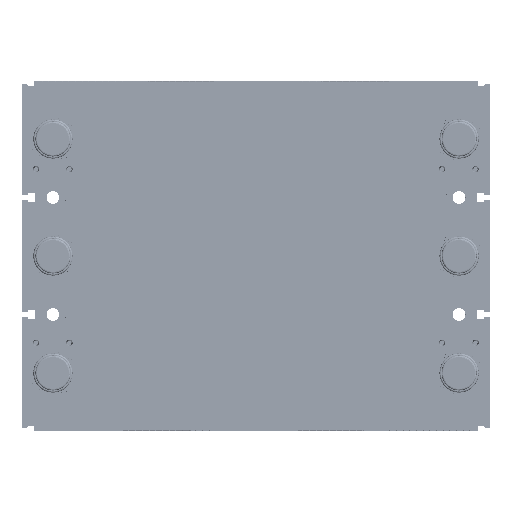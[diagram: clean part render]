
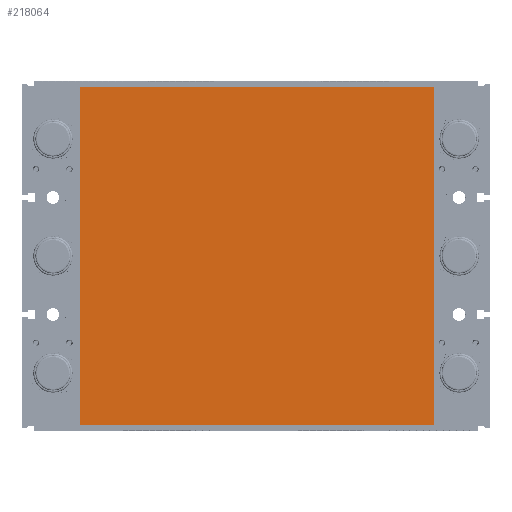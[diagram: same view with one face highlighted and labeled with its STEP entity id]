
A CAD part, front view. The second image highlights one B-rep face of the part: STEP entity #218064.
In plain terms, the highlighted planar face has unit normal (0, -1, 0) as drawn and (0, 0, 1) by its records, which use the part's own axes.
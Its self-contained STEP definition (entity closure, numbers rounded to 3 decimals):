
#6419 = VECTOR ( 'NONE', #210974, 1000. ) ;
#6944 = CARTESIAN_POINT ( 'NONE',  ( 0., 0., 1. ) ) ;
#9917 = EDGE_CURVE ( 'NONE', #129848, #97757, #218102, .T. ) ;
#11970 = ORIENTED_EDGE ( 'NONE', *, *, #9917, .F. ) ;
#14759 = DIRECTION ( 'NONE',  ( 1., 0., 0. ) ) ;
#15262 = CARTESIAN_POINT ( 'NONE',  ( 0., 202., 1. ) ) ;
#16868 = ORIENTED_EDGE ( 'NONE', *, *, #246176, .F. ) ;
#22222 = CARTESIAN_POINT ( 'NONE',  ( 0., 0., 1. ) ) ;
#36499 = DIRECTION ( 'NONE',  ( 0., -1., 0. ) ) ;
#65025 = DIRECTION ( 'NONE',  ( -1., 0., 0. ) ) ;
#72239 = CARTESIAN_POINT ( 'NONE',  ( 0., 0., 1. ) ) ;
#88180 = LINE ( 'NONE', #72239, #6419 ) ;
#93338 = LINE ( 'NONE', #198876, #233280 ) ;
#97757 = VERTEX_POINT ( 'NONE', #160552 ) ;
#119848 = ORIENTED_EDGE ( 'NONE', *, *, #149361, .F. ) ;
#123166 = DIRECTION ( 'NONE',  ( 0., 0., -1. ) ) ;
#124606 = ORIENTED_EDGE ( 'NONE', *, *, #160381, .F. ) ;
#129848 = VERTEX_POINT ( 'NONE', #15262 ) ;
#149361 = EDGE_CURVE ( 'NONE', #97757, #253607, #93338, .T. ) ;
#153971 = EDGE_LOOP ( 'NONE', ( #11970, #16868, #124606, #119848 ) ) ;
#160381 = EDGE_CURVE ( 'NONE', #253607, #218308, #88180, .T. ) ;
#160552 = CARTESIAN_POINT ( 'NONE',  ( 212., 202., 1. ) ) ;
#164387 = CARTESIAN_POINT ( 'NONE',  ( 212., 0., 1. ) ) ;
#178417 = CARTESIAN_POINT ( 'NONE',  ( 0., 202., 1. ) ) ;
#181011 = AXIS2_PLACEMENT_3D ( 'NONE', #6944, #123166, #65025 ) ;
#182425 = VECTOR ( 'NONE', #14759, 1000. ) ;
#187839 = FACE_OUTER_BOUND ( 'NONE', #153971, .T. ) ;
#198876 = CARTESIAN_POINT ( 'NONE',  ( 212., 0., 1. ) ) ;
#205232 = DIRECTION ( 'NONE',  ( 0., 1., 0. ) ) ;
#210974 = DIRECTION ( 'NONE',  ( -1., 0., 0. ) ) ;
#218064 = ADVANCED_FACE ( 'NONE', ( #187839 ), #223583, .F. ) ;
#218102 = LINE ( 'NONE', #178417, #182425 ) ;
#218308 = VERTEX_POINT ( 'NONE', #22222 ) ;
#222477 = LINE ( 'NONE', #223779, #241217 ) ;
#223583 = PLANE ( 'NONE',  #181011 ) ;
#223779 = CARTESIAN_POINT ( 'NONE',  ( 0., 0., 1. ) ) ;
#233280 = VECTOR ( 'NONE', #36499, 1000. ) ;
#241217 = VECTOR ( 'NONE', #205232, 1000. ) ;
#246176 = EDGE_CURVE ( 'NONE', #218308, #129848, #222477, .T. ) ;
#253607 = VERTEX_POINT ( 'NONE', #164387 ) ;
